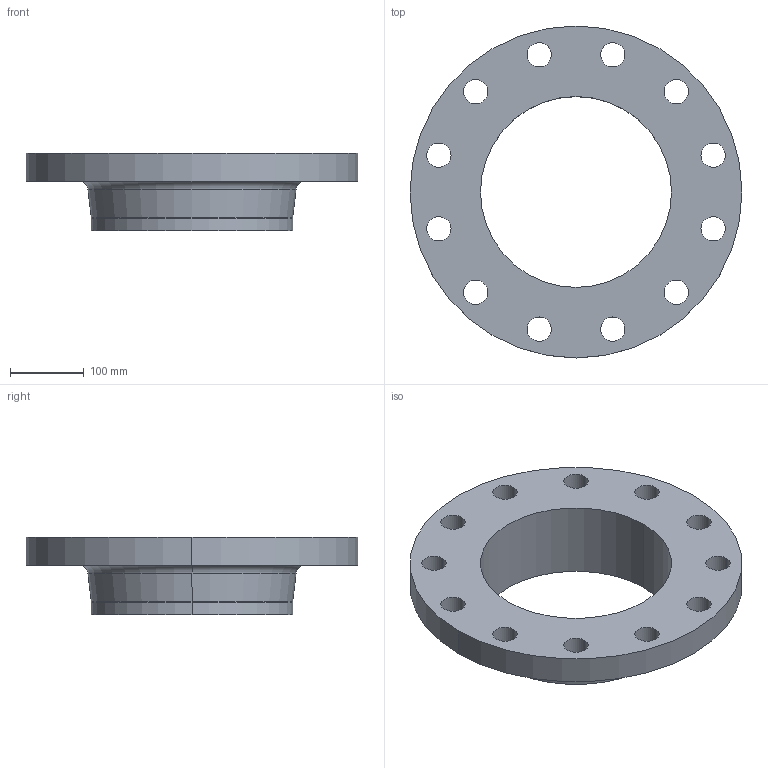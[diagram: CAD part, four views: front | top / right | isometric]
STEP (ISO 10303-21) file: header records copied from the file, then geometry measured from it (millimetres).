
FILE_DESCRIPTION (( 'STEP AP214' ), '1' );
FILE_NAME ('PN40 DN250 Type 11 - Type A Face.STEP', '2019-01-05T16:13:41', ( '' ), ( '' ), 'SwSTEP 2.0', 'SolidWorks 2019', '' );
FILE_SCHEMA (( 'AUTOMOTIVE_DESIGN' ));
Length unit declared in the file: millimetre
Products named in the file (1): PN40 DN250 Type 11 - Type A Face
Bounding box: 450 x 450 x 105 mm (x, y, z)
Volume: 4199182.8 mm3; surface area: 428849.1 mm2
Topology: 1 solids, 1 shells, 39 faces, 102 edges, 66 vertices
Faces by surface type: cylinder 30, torus 4, plane 3, cone 2
Entity records: 1324 total; most frequent: DIRECTION 252, CARTESIAN_POINT 208, ORIENTED_EDGE 204, AXIS2_PLACEMENT_3D 110, EDGE_CURVE 102, CIRCLE 70, EDGE_LOOP 66, VERTEX_POINT 66
